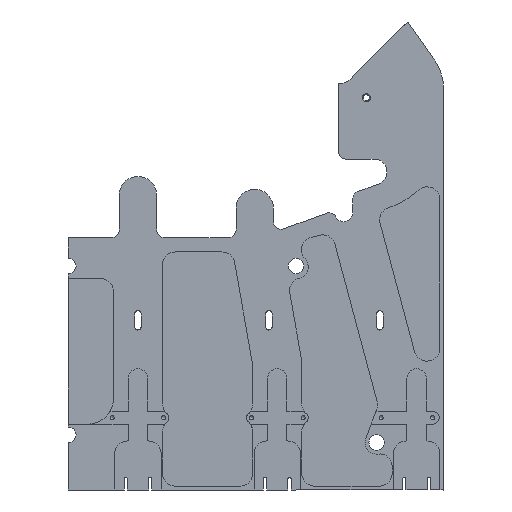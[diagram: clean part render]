
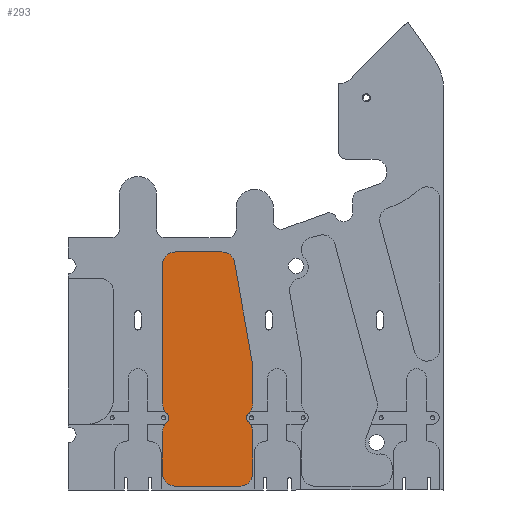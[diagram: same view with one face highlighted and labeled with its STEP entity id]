
A CAD part, front view. The second image highlights one B-rep face of the part: STEP entity #293.
In plain terms, the highlighted planar face has unit normal (0, -1, 0).
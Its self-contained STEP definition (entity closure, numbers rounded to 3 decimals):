
#293=ADVANCED_FACE('',(#2116),#2118,.T.);
#2116=FACE_BOUND('',#2117,.T.);
#2117=EDGE_LOOP('',(#3692,#3693,#3694,#3695,#3696,#3697,#3698,#3699,#3700,#3701,
#3702,#3703,#3704,#3705,#3706,#3707,#3708,#3709));
#2118=PLANE('',#2119);
#2119=AXIS2_PLACEMENT_3D('',#2120,#2121,#2122);
#2120=CARTESIAN_POINT('',(0.,9.,0.));
#2121=DIRECTION('',(0.,-1.,0.));
#2122=DIRECTION('',(1.,0.,0.));
#3692=ORIENTED_EDGE('',*,*,#4419,.F.);
#3693=ORIENTED_EDGE('',*,*,#4417,.T.);
#3694=ORIENTED_EDGE('',*,*,#4415,.F.);
#3695=ORIENTED_EDGE('',*,*,#4413,.T.);
#3696=ORIENTED_EDGE('',*,*,#4411,.F.);
#3697=ORIENTED_EDGE('',*,*,#4409,.T.);
#3698=ORIENTED_EDGE('',*,*,#4406,.T.);
#3699=ORIENTED_EDGE('',*,*,#4470,.T.);
#3700=ORIENTED_EDGE('',*,*,#4468,.T.);
#3701=ORIENTED_EDGE('',*,*,#4516,.T.);
#3702=ORIENTED_EDGE('',*,*,#4517,.F.);
#3703=ORIENTED_EDGE('',*,*,#4518,.T.);
#3704=ORIENTED_EDGE('',*,*,#4519,.F.);
#3705=ORIENTED_EDGE('',*,*,#4520,.T.);
#3706=ORIENTED_EDGE('',*,*,#4372,.T.);
#3707=ORIENTED_EDGE('',*,*,#4370,.T.);
#3708=ORIENTED_EDGE('',*,*,#4368,.T.);
#3709=ORIENTED_EDGE('',*,*,#4420,.T.);
#4368=EDGE_CURVE('',#5548,#5546,#5549,.T.);
#4370=EDGE_CURVE('',#5551,#5548,#5552,.T.);
#4372=EDGE_CURVE('',#5554,#5551,#5555,.T.);
#4406=EDGE_CURVE('',#5602,#5600,#5603,.T.);
#4409=EDGE_CURVE('',#5605,#5602,#5607,.T.);
#4411=EDGE_CURVE('',#5605,#5608,#5610,.F.);
#4413=EDGE_CURVE('',#5611,#5608,#5613,.T.);
#4415=EDGE_CURVE('',#5611,#5614,#5616,.F.);
#4417=EDGE_CURVE('',#5617,#5614,#5619,.T.);
#4419=EDGE_CURVE('',#5617,#5620,#5622,.F.);
#4420=EDGE_CURVE('',#5546,#5620,#5623,.T.);
#4468=EDGE_CURVE('',#5694,#5692,#5695,.T.);
#4470=EDGE_CURVE('',#5600,#5694,#5697,.T.);
#4516=EDGE_CURVE('',#5692,#5774,#5775,.T.);
#4517=EDGE_CURVE('',#5776,#5774,#5777,.F.);
#4518=EDGE_CURVE('',#5776,#5778,#5779,.T.);
#4519=EDGE_CURVE('',#5780,#5778,#5781,.F.);
#4520=EDGE_CURVE('',#5780,#5554,#5782,.T.);
#5546=VERTEX_POINT('',#8242);
#5548=VERTEX_POINT('',#8246);
#5549=CIRCLE('',#8247,10.);
#5551=VERTEX_POINT('',#8254);
#5552=CIRCLE('',#8255,4.);
#5554=VERTEX_POINT('',#8262);
#5555=CIRCLE('',#8263,10.);
#5600=VERTEX_POINT('',#8383);
#5602=VERTEX_POINT('',#8387);
#5603=CIRCLE('',#8388,10.);
#5605=VERTEX_POINT('',#8395);
#5607=LINE('',#8399,#8400);
#5608=VERTEX_POINT('',#8402);
#5610=CIRCLE('',#8406,10.);
#5611=VERTEX_POINT('',#8410);
#5613=LINE('',#8414,#8415);
#5614=VERTEX_POINT('',#8417);
#5616=CIRCLE('',#8421,10.);
#5617=VERTEX_POINT('',#8425);
#5619=LINE('',#8429,#8430);
#5620=VERTEX_POINT('',#8432);
#5622=CIRCLE('',#8436,10.);
#5623=LINE('',#8440,#8441);
#5692=VERTEX_POINT('',#8616);
#5694=VERTEX_POINT('',#8620);
#5695=CIRCLE('',#8621,10.);
#5697=CIRCLE('',#8628,4.);
#5774=VERTEX_POINT('',#8821);
#5775=LINE('',#8822,#8823);
#5776=VERTEX_POINT('',#8825);
#5777=CIRCLE('',#8826,10.);
#5778=VERTEX_POINT('',#8830);
#5779=LINE('',#8831,#8832);
#5780=VERTEX_POINT('',#8834);
#5781=CIRCLE('',#8835,10.);
#5782=LINE('',#8839,#8840);
#8242=CARTESIAN_POINT('',(-148.,9.,66.724));
#8246=CARTESIAN_POINT('',(-151.571,9.,59.064));
#8247=AXIS2_PLACEMENT_3D('',#8248,#8249,#8250);
#8248=CARTESIAN_POINT('',(-158.,9.,66.724));
#8249=DIRECTION('',(0.,-1.,0.));
#8250=DIRECTION('',(0.643,0.,-0.766));
#8254=CARTESIAN_POINT('',(-151.571,9.,52.936));
#8255=AXIS2_PLACEMENT_3D('',#8256,#8257,#8258);
#8256=CARTESIAN_POINT('',(-149.,9.,56.));
#8257=DIRECTION('',(0.,1.,0.));
#8258=DIRECTION('',(-0.643,0.,-0.766));
#8262=CARTESIAN_POINT('',(-148.,9.,45.276));
#8263=AXIS2_PLACEMENT_3D('',#8264,#8265,#8266);
#8264=CARTESIAN_POINT('',(-158.,9.,45.276));
#8265=DIRECTION('',(0.,-1.,0.));
#8266=DIRECTION('',(1.,0.,0.));
#8383=CARTESIAN_POINT('',(-214.429,9.,59.064));
#8387=CARTESIAN_POINT('',(-218.,9.,66.724));
#8388=AXIS2_PLACEMENT_3D('',#8389,#8390,#8391);
#8389=CARTESIAN_POINT('',(-208.,9.,66.724));
#8390=DIRECTION('',(0.,-1.,0.));
#8391=DIRECTION('',(-1.,0.,0.));
#8395=CARTESIAN_POINT('',(-218.,9.,174.5));
#8399=CARTESIAN_POINT('',(-218.,9.,174.5));
#8400=VECTOR('',#8401,1.);
#8401=DIRECTION('',(0.,0.,-1.));
#8402=CARTESIAN_POINT('',(-208.,9.,184.5));
#8406=AXIS2_PLACEMENT_3D('',#8407,#8408,#8409);
#8407=CARTESIAN_POINT('',(-208.,9.,174.5));
#8408=DIRECTION('',(0.,-1.,0.));
#8409=DIRECTION('',(0.,0.,1.));
#8410=CARTESIAN_POINT('',(-171.912,9.,184.5));
#8414=CARTESIAN_POINT('',(-171.912,9.,184.5));
#8415=VECTOR('',#8416,1.);
#8416=DIRECTION('',(-1.,0.,0.));
#8417=CARTESIAN_POINT('',(-162.064,9.,176.236));
#8421=AXIS2_PLACEMENT_3D('',#8422,#8423,#8424);
#8422=CARTESIAN_POINT('',(-171.912,9.,174.5));
#8423=DIRECTION('',(0.,-1.,0.));
#8424=DIRECTION('',(0.985,0.,0.174));
#8425=CARTESIAN_POINT('',(-148.152,9.,97.337));
#8429=CARTESIAN_POINT('',(-148.152,9.,97.337));
#8430=VECTOR('',#8431,1.);
#8431=DIRECTION('',(-0.174,0.,0.985));
#8432=CARTESIAN_POINT('',(-148.,9.,95.6));
#8436=AXIS2_PLACEMENT_3D('',#8437,#8438,#8439);
#8437=CARTESIAN_POINT('',(-158.,9.,95.6));
#8438=DIRECTION('',(0.,-1.,0.));
#8439=DIRECTION('',(1.,0.,0.));
#8440=CARTESIAN_POINT('',(-148.,9.,66.724));
#8441=VECTOR('',#8442,1.);
#8442=DIRECTION('',(0.,0.,1.));
#8616=CARTESIAN_POINT('',(-218.,9.,45.276));
#8620=CARTESIAN_POINT('',(-214.429,9.,52.936));
#8621=AXIS2_PLACEMENT_3D('',#8622,#8623,#8624);
#8622=CARTESIAN_POINT('',(-208.,9.,45.276));
#8623=DIRECTION('',(0.,-1.,0.));
#8624=DIRECTION('',(-0.643,0.,0.766));
#8628=AXIS2_PLACEMENT_3D('',#8629,#8630,#8631);
#8629=CARTESIAN_POINT('',(-217.,9.,56.));
#8630=DIRECTION('',(0.,1.,0.));
#8631=DIRECTION('',(0.643,0.,0.766));
#8821=CARTESIAN_POINT('',(-218.,9.,13.));
#8822=CARTESIAN_POINT('',(-218.,9.,45.276));
#8823=VECTOR('',#8824,1.);
#8824=DIRECTION('',(0.,0.,-1.));
#8825=CARTESIAN_POINT('',(-208.,9.,3.));
#8826=AXIS2_PLACEMENT_3D('',#8827,#8828,#8829);
#8827=CARTESIAN_POINT('',(-208.,9.,13.));
#8828=DIRECTION('',(0.,-1.,0.));
#8829=DIRECTION('',(-1.,0.,0.));
#8830=CARTESIAN_POINT('',(-158.,9.,3.));
#8831=CARTESIAN_POINT('',(-208.,9.,3.));
#8832=VECTOR('',#8833,1.);
#8833=DIRECTION('',(1.,0.,0.));
#8834=CARTESIAN_POINT('',(-148.,9.,13.));
#8835=AXIS2_PLACEMENT_3D('',#8836,#8837,#8838);
#8836=CARTESIAN_POINT('',(-158.,9.,13.));
#8837=DIRECTION('',(0.,-1.,0.));
#8838=DIRECTION('',(0.,0.,-1.));
#8839=CARTESIAN_POINT('',(-148.,9.,13.));
#8840=VECTOR('',#8841,1.);
#8841=DIRECTION('',(0.,0.,1.));
